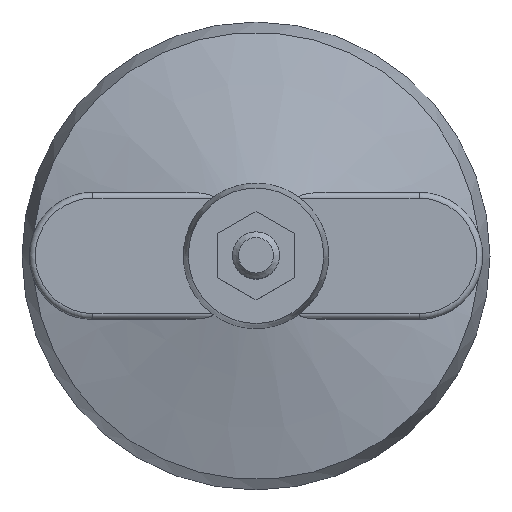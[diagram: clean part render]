
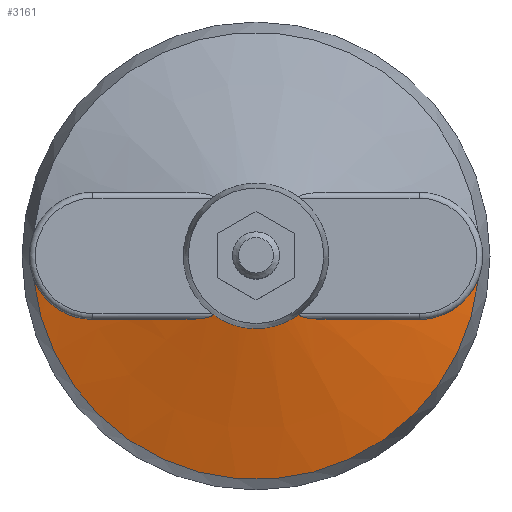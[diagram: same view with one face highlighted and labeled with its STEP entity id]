
A CAD part, top view. The second image highlights one B-rep face of the part: STEP entity #3161.
In plain terms, the highlighted conical face has half-angle 74.933 degrees and reference radius 0 mm.
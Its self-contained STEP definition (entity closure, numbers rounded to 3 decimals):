
#1932=CARTESIAN_POINT('',(7.515,-9.8,13.5));
#1933=VERTEX_POINT('',#1932);
#1940=CARTESIAN_POINT('',(-7.515,-9.8,13.5));
#1941=VERTEX_POINT('',#1940);
#1942=CARTESIAN_POINT('',(-7.515,-9.8,13.5));
#1943=CARTESIAN_POINT('',(-5.754,-11.151,13.5));
#1944=CARTESIAN_POINT('',(-3.632,-11.804,13.5));
#1945=CARTESIAN_POINT('',(2.459,-13.678,13.5));
#1946=CARTESIAN_POINT('',(7.515,-9.8,13.5));
#1947=(BOUNDED_CURVE()B_SPLINE_CURVE(2,(#1942,#1943,#1944,#1945,#1946),.UNSPECIFIED.,.F.,.U.)B_SPLINE_CURVE_WITH_KNOTS((3,2,3),(1.104,1.206,1.46),.UNSPECIFIED.)CURVE()GEOMETRIC_REPRESENTATION_ITEM()RATIONAL_B_SPLINE_CURVE((0.868,0.917,1.,0.793,0.797))REPRESENTATION_ITEM(''));
#1948=EDGE_CURVE('',#1941,#1933,#1947,.T.);
#3048=CARTESIAN_POINT('',(-37.784,-3.866,6.6));
#3049=VERTEX_POINT('',#3048);
#3061=CARTESIAN_POINT('',(37.784,-3.867,6.6));
#3062=VERTEX_POINT('',#3061);
#3063=CARTESIAN_POINT('',(0.,0.,6.6));
#3064=DIRECTION('',(-0.995,-0.102,0.));
#3065=DIRECTION('',(0.,0.,1.));
#3066=AXIS2_PLACEMENT_3D('',#3063,#3065,#3064);
#3067=CIRCLE('',#3066,37.982);
#3068=EDGE_CURVE('',#3049,#3062,#3067,.T.);
#3085=CARTESIAN_POINT('',(0.,0.,16.825));
#3086=DIRECTION('',(-0.995,-0.102,0.));
#3087=DIRECTION('',(0.,0.,-1.));
#3088=AXIS2_PLACEMENT_3D('',#3085,#3087,#3086);
#3089=CONICAL_SURFACE('',#3088,0.,1.308);
#3090=CARTESIAN_POINT('',(27.7,-10.8,8.821));
#3091=VERTEX_POINT('',#3090);
#3092=CARTESIAN_POINT('',(11.893,-10.8,12.5));
#3093=VERTEX_POINT('',#3092);
#3094=CARTESIAN_POINT('',(27.7,-10.8,8.821));
#3095=CARTESIAN_POINT('',(17.438,-10.8,11.395));
#3096=CARTESIAN_POINT('',(11.893,-10.8,12.5));
#3097=(BOUNDED_CURVE()B_SPLINE_CURVE(2,(#3094,#3095,#3096),.HYPERBOLIC_ARC.,.F.,.U.)B_SPLINE_CURVE_WITH_KNOTS((3,3),(0.,0.567),.UNSPECIFIED.)CURVE()GEOMETRIC_REPRESENTATION_ITEM()RATIONAL_B_SPLINE_CURVE((1.393,1.823,2.101))REPRESENTATION_ITEM(''));
#3098=EDGE_CURVE('',#3091,#3093,#3097,.T.);
#3099=ORIENTED_EDGE('E376',*,*,#3098,.F.);
#3100=CARTESIAN_POINT('',(37.785,-3.866,6.6));
#3101=CARTESIAN_POINT('',(37.612,-4.318,6.634));
#3102=CARTESIAN_POINT('',(36.488,-6.754,6.856));
#3103=CARTESIAN_POINT('',(34.489,-8.67,7.259));
#3104=CARTESIAN_POINT('',(31.56,-10.15,7.902));
#3105=CARTESIAN_POINT('',(29.936,-10.67,8.271));
#3106=CARTESIAN_POINT('',(28.258,-10.8,8.681));
#3107=CARTESIAN_POINT('',(27.7,-10.8,8.821));
#3108=B_SPLINE_CURVE_WITH_KNOTS('',3,(#3100,#3101,#3102,#3103,#3104,#3105,#3106,#3107),.UNSPECIFIED.,.F.,.U.,(4,1,2,1,4),(0.187,0.333,1.,1.35,1.525),.UNSPECIFIED.);
#3109=EDGE_CURVE('',#3062,#3091,#3108,.T.);
#3110=ORIENTED_EDGE('E379',*,*,#3109,.F.);
#3111=ORIENTED_EDGE('E379',*,*,#3068,.F.);
#3112=CARTESIAN_POINT('',(-27.7,-10.8,8.821));
#3113=VERTEX_POINT('',#3112);
#3114=CARTESIAN_POINT('',(-27.7,-10.8,8.821));
#3115=CARTESIAN_POINT('',(-28.933,-10.8,8.512));
#3116=CARTESIAN_POINT('',(-32.643,-10.167,7.635));
#3117=CARTESIAN_POINT('',(-35.699,-7.682,7.015));
#3118=CARTESIAN_POINT('',(-37.298,-4.989,6.696));
#3119=CARTESIAN_POINT('',(-37.565,-4.437,6.643));
#3120=CARTESIAN_POINT('',(-37.784,-3.866,6.6));
#3121=B_SPLINE_CURVE_WITH_KNOTS('',3,(#3114,#3115,#3116,#3117,#3118,#3119,#3120),.UNSPECIFIED.,.F.,.U.,(4,1,2,4),(0.,0.333,1.,1.161),.UNSPECIFIED.);
#3122=EDGE_CURVE('',#3113,#3049,#3121,.T.);
#3123=ORIENTED_EDGE('E370',*,*,#3122,.F.);
#3124=CARTESIAN_POINT('',(-11.893,-10.8,12.5));
#3125=VERTEX_POINT('',#3124);
#3126=CARTESIAN_POINT('',(-11.893,-10.8,12.5));
#3127=CARTESIAN_POINT('',(-17.438,-10.8,11.395));
#3128=CARTESIAN_POINT('',(-27.7,-10.8,8.821));
#3129=(BOUNDED_CURVE()B_SPLINE_CURVE(2,(#3126,#3127,#3128),.HYPERBOLIC_ARC.,.F.,.U.)B_SPLINE_CURVE_WITH_KNOTS((3,3),(0.433,1.),.UNSPECIFIED.)CURVE()GEOMETRIC_REPRESENTATION_ITEM()RATIONAL_B_SPLINE_CURVE((2.101,1.823,1.393))REPRESENTATION_ITEM(''));
#3130=EDGE_CURVE('',#3125,#3113,#3129,.T.);
#3131=ORIENTED_EDGE('E371',*,*,#3130,.F.);
#3132=CARTESIAN_POINT('',(-11.893,-10.8,12.5));
#3133=CARTESIAN_POINT('',(-10.843,-10.8,12.709));
#3134=CARTESIAN_POINT('',(-8.909,-10.715,13.077));
#3135=CARTESIAN_POINT('',(-7.725,-10.326,13.353));
#3136=CARTESIAN_POINT('',(-7.37,-10.196,13.438));
#3137=CARTESIAN_POINT('',(-7.375,-9.982,13.484));
#3138=CARTESIAN_POINT('',(-7.395,-9.928,13.492));
#3139=CARTESIAN_POINT('',(-7.431,-9.875,13.498));
#3140=CARTESIAN_POINT('',(-7.485,-9.821,13.501));
#3141=CARTESIAN_POINT('',(-7.515,-9.8,13.5));
#3142=B_SPLINE_CURVE_WITH_KNOTS('',3,(#3132,#3133,#3134,#3135,#3136,#3137,#3138,#3139,#3140,#3141),.UNSPECIFIED.,.F.,.U.,(4,2,2,2,4),(0.,1.,1.157,1.18,1.21),.UNSPECIFIED.);
#3143=EDGE_CURVE('',#3125,#1941,#3142,.T.);
#3144=ORIENTED_EDGE('E413',*,*,#3143,.T.);
#3145=ORIENTED_EDGE('E413',*,*,#1948,.T.);
#3146=CARTESIAN_POINT('',(11.893,-10.8,12.5));
#3147=CARTESIAN_POINT('',(10.843,-10.8,12.709));
#3148=CARTESIAN_POINT('',(8.909,-10.715,13.077));
#3149=CARTESIAN_POINT('',(7.725,-10.326,13.353));
#3150=CARTESIAN_POINT('',(7.37,-10.196,13.438));
#3151=CARTESIAN_POINT('',(7.375,-9.982,13.484));
#3152=CARTESIAN_POINT('',(7.395,-9.928,13.492));
#3153=CARTESIAN_POINT('',(7.431,-9.875,13.498));
#3154=CARTESIAN_POINT('',(7.485,-9.821,13.501));
#3155=CARTESIAN_POINT('',(7.515,-9.8,13.5));
#3156=B_SPLINE_CURVE_WITH_KNOTS('',3,(#3146,#3147,#3148,#3149,#3150,#3151,#3152,#3153,#3154,#3155),.UNSPECIFIED.,.F.,.U.,(4,2,2,2,4),(0.,1.,1.157,1.18,1.21),.UNSPECIFIED.);
#3157=EDGE_CURVE('',#3093,#1933,#3156,.T.);
#3158=ORIENTED_EDGE('E410',*,*,#3157,.F.);
#3159=EDGE_LOOP('',(#3099,#3110,#3111,#3123,#3131,#3144,#3145,#3158));
#3160=FACE_OUTER_BOUND('',#3159,.F.);
#3161=ADVANCED_FACE('F160',(#3160),#3089,.T.);
